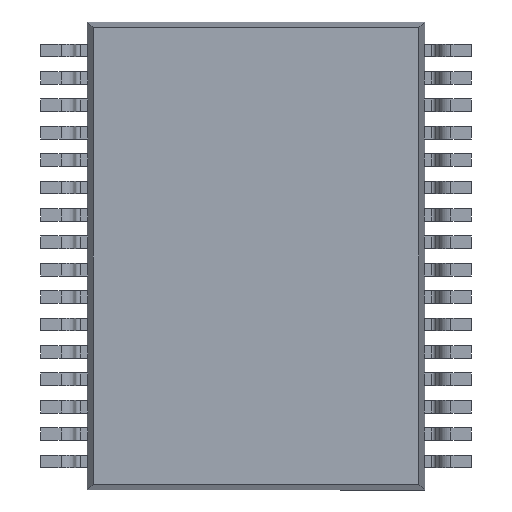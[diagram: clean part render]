
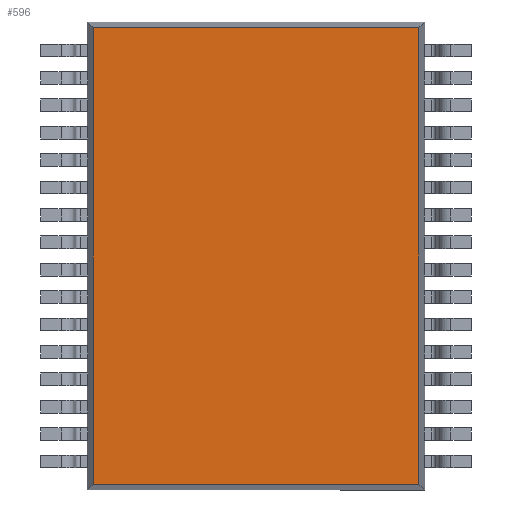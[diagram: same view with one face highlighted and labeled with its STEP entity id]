
A CAD part, front view. The second image highlights one B-rep face of the part: STEP entity #596.
In plain terms, the highlighted planar face has unit normal (0, -1, 0).
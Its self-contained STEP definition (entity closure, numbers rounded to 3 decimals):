
#596 = ADVANCED_FACE ( 'NONE', ( #8562 ), #6931, .F. ) ;
#961 = VERTEX_POINT ( 'NONE', #17899 ) ;
#1824 = ORIENTED_EDGE ( 'NONE', *, *, #9371, .T. ) ;
#1825 = ORIENTED_EDGE ( 'NONE', *, *, #9737, .T. ) ;
#1826 = ORIENTED_EDGE ( 'NONE', *, *, #9369, .T. ) ;
#1827 = ORIENTED_EDGE ( 'NONE', *, *, #9738, .T. ) ;
#2140 = EDGE_LOOP ( 'NONE', ( #1824, #1825, #1826, #1827 ) ) ;
#3624 = CARTESIAN_POINT ( 'NONE',  ( 4., 0.1, -5.409 ) ) ;
#3625 = DIRECTION ( 'NONE',  ( 1., 0., 0. ) ) ;
#3626 = CARTESIAN_POINT ( 'NONE',  ( 4., 0.1, 5.409 ) ) ;
#3627 = DIRECTION ( 'NONE',  ( -1., 0., 0. ) ) ;
#4280 = LINE ( 'NONE', #3624, #4283 ) ;
#4282 = LINE ( 'NONE', #3626, #4285 ) ;
#4283 = VECTOR ( 'NONE', #3625, 1000. ) ;
#4285 = VECTOR ( 'NONE', #3627, 1000. ) ;
#6931 = PLANE ( 'NONE',  #14164 ) ;
#6933 = CARTESIAN_POINT ( 'NONE',  ( 0., 0.1, 0. ) ) ;
#6937 = DIRECTION ( 'NONE',  ( 0., 1., 0. ) ) ;
#6938 = DIRECTION ( 'NONE',  ( 0., 0., 1. ) ) ;
#8562 = FACE_OUTER_BOUND ( 'NONE', #2140, .T. ) ;
#8931 = VERTEX_POINT ( 'NONE', #20252 ) ;
#8940 = VERTEX_POINT ( 'NONE', #20258 ) ;
#9084 = VERTEX_POINT ( 'NONE', #20402 ) ;
#9369 = EDGE_CURVE ( 'NONE', #8940, #961, #19474, .T. ) ;
#9371 = EDGE_CURVE ( 'NONE', #8931, #9084, #19478, .T. ) ;
#9737 = EDGE_CURVE ( 'NONE', #9084, #8940, #4280, .T. ) ;
#9738 = EDGE_CURVE ( 'NONE', #961, #8931, #4282, .T. ) ;
#14164 = AXIS2_PLACEMENT_3D ( 'NONE', #6933, #6937, #6938 ) ;
#17899 = CARTESIAN_POINT ( 'NONE',  ( 3.859, 0.1, 5.409 ) ) ;
#19474 = LINE ( 'NONE', #20563, #19477 ) ;
#19477 = VECTOR ( 'NONE', #20565, 1000. ) ;
#19478 = LINE ( 'NONE', #20567, #19481 ) ;
#19481 = VECTOR ( 'NONE', #20568, 1000. ) ;
#20252 = CARTESIAN_POINT ( 'NONE',  ( -3.859, 0.1, 5.409 ) ) ;
#20258 = CARTESIAN_POINT ( 'NONE',  ( 3.859, 0.1, -5.409 ) ) ;
#20402 = CARTESIAN_POINT ( 'NONE',  ( -3.859, 0.1, -5.409 ) ) ;
#20563 = CARTESIAN_POINT ( 'NONE',  ( 3.859, 0.1, 5.55 ) ) ;
#20565 = DIRECTION ( 'NONE',  ( 0., 0., 1. ) ) ;
#20567 = CARTESIAN_POINT ( 'NONE',  ( -3.859, 0.1, 5.55 ) ) ;
#20568 = DIRECTION ( 'NONE',  ( 0., 0., -1. ) ) ;
